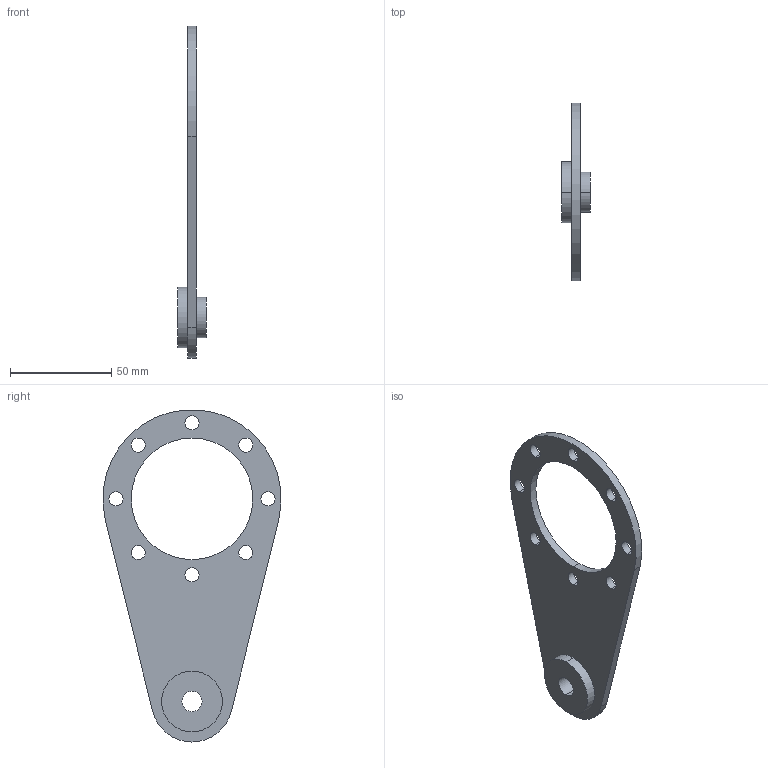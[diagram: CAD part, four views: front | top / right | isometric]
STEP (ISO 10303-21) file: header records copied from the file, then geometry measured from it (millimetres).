
FILE_DESCRIPTION((''),'2;1');
FILE_NAME('TAB40','2013-09-02T',('atrevisan'),(''),'PRO/ENGINEER BY PARAMETRIC TECHNOLOGY CORPORATION, 2011490','PRO/ENGINEER BY PARAMETRIC TECHNOLOGY CORPORATION, 2011490','');
FILE_SCHEMA(('CONFIG_CONTROL_DESIGN'));
Length unit declared in the file: millimetre
Products named in the file (1): TAB40
Bounding box: 14 x 87.79 x 163.84 mm (x, y, z)
Volume: 32482.7 mm3; surface area: 18391.8 mm2
Topology: 1 solids, 1 shells, 32 faces, 84 edges, 56 vertices
Faces by surface type: cylinder 26, plane 6
Entity records: 1098 total; most frequent: DIRECTION 200, CARTESIAN_POINT 172, ORIENTED_EDGE 168, AXIS2_PLACEMENT_3D 84, EDGE_CURVE 84, VERTEX_POINT 56, EDGE_LOOP 54, CIRCLE 52
